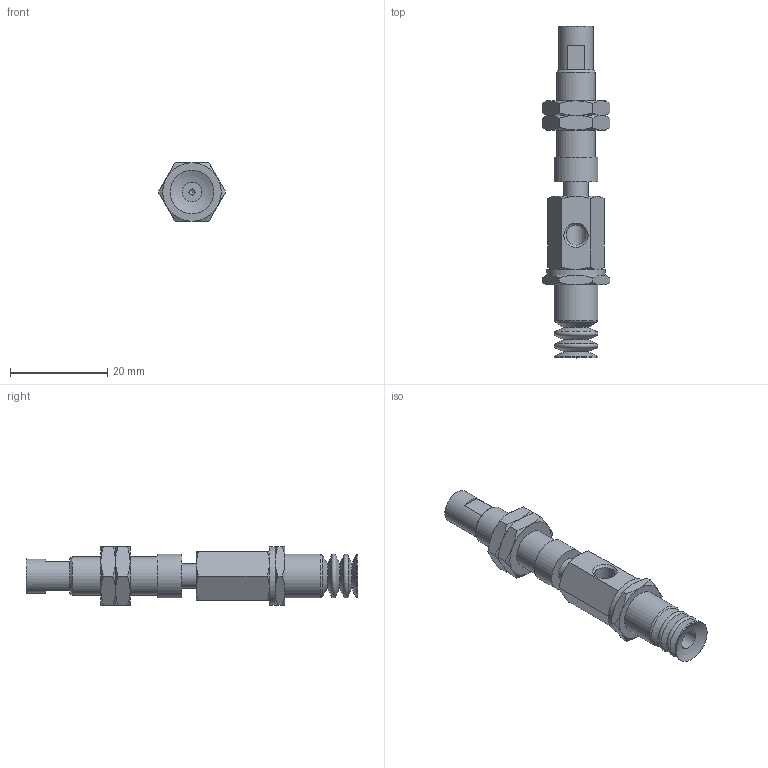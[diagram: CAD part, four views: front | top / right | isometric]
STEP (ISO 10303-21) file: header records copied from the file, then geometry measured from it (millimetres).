
FILE_DESCRIPTION(('STEP AP203'),'1');
FILE_NAME('.stp','2025-04-03T06:21:40',(' '),(' '),'Spatial InterOp 3D',' ',' ');
FILE_SCHEMA(('CONFIG_CONTROL_DESIGN'));
Length unit declared in the file: millimetre
Products named in the file (7): BNABPCYS-10-3-※; Adapter_napc-10-T; Connector_s-10-3; Nut napc_s-10-3; NAPCTS-10-3-FBODY; NAPCTS-10-3-MBODY; BPCG-10-※
Assembly tree (7 placements, depth 2):
  BNABPCYS-10-3-※
    Adapter_napc-10-T
    Connector_s-10-3
    Nut napc_s-10-3  x2
    NAPCTS-10-3-FBODY
    NAPCTS-10-3-MBODY
    BPCG-10-※
Bounding box: 13.86 x 68.2 x 12 mm (x, y, z)
Volume: 4343 mm3; surface area: 4800 mm2
Topology: 7 solids, 7 shells, 159 faces, 329 edges, 193 vertices
Faces by surface type: cone 69, plane 59, cylinder 21, torus 8, sphere 2
Full cylindrical faces by diameter (mm): 1.25 x1, 4 x1, 4.134 x3, 5 x8, 7 x1, 7.188 x2, 8 x1, 9 x3, 12 x1
Entity records: 4024 total; most frequent: CARTESIAN_POINT 1069, DIRECTION 548, ORIENTED_EDGE 458, AXIS2_PLACEMENT_3D 251, EDGE_CURVE 229, EDGE_LOOP 202, FACE_OUTER_BOUND 166, VERTEX_POINT 162
